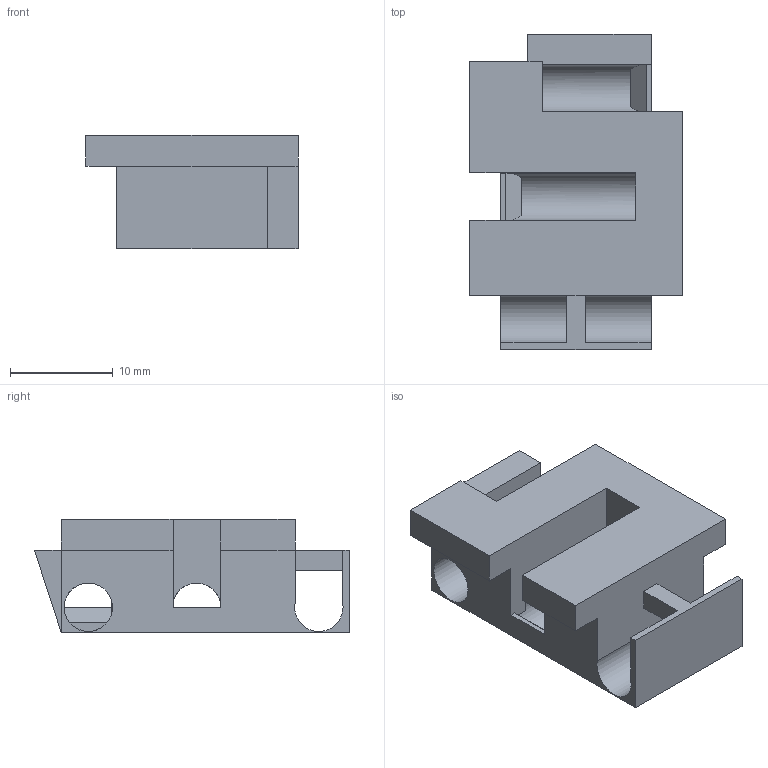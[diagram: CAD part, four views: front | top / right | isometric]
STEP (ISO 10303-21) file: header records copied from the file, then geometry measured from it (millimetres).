
FILE_DESCRIPTION(/* description */ (''),/* implementation_level */ '2;1');
FILE_NAME(/* name */ 'C:/Users/x/sync_windows/insert_g17_isolated v1.step',/* time_stamp */ '2020-01-05T05:34:02-08:00',/* author */ (''),/* organization */ (''),/* preprocessor_version */ 'ST-DEVELOPER v18',/* originating_system */ 'Autodesk Translation Framework v8.12.0.6',/* authorisation */ '');
FILE_SCHEMA (('AUTOMOTIVE_DESIGN { 1 0 10303 214 3 1 1 }'));
Length unit declared in the file: millimetre
Products named in the file (2): insert_g17_isolated; insert
Assembly tree (1 placements, depth 2):
  insert_g17_isolated
    insert
Bounding box: 20.6 x 30.59 x 11 mm (x, y, z)
Volume: 3059.8 mm3; surface area: 2697.9 mm2
Topology: 1 solids, 1 shells, 45 faces, 135 edges, 89 vertices
Faces by surface type: plane 42, cylinder 3
Full cylindrical faces by diameter (mm): 4.7 x2
Entity records: 1568 total; most frequent: CARTESIAN_POINT 272, ORIENTED_EDGE 270, DIRECTION 249, EDGE_CURVE 135, LINE 117, VECTOR 117, VERTEX_POINT 89, AXIS2_PLACEMENT_3D 66
